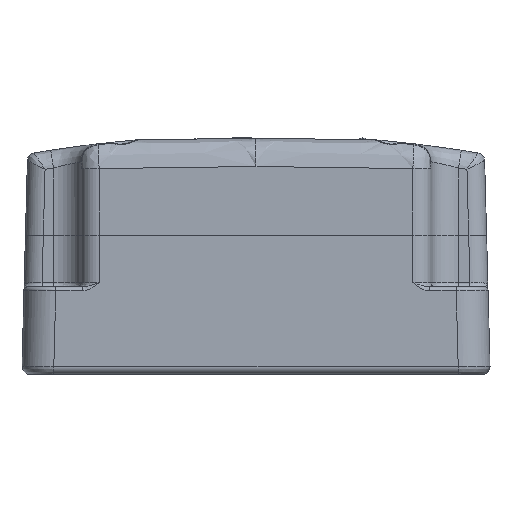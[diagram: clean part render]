
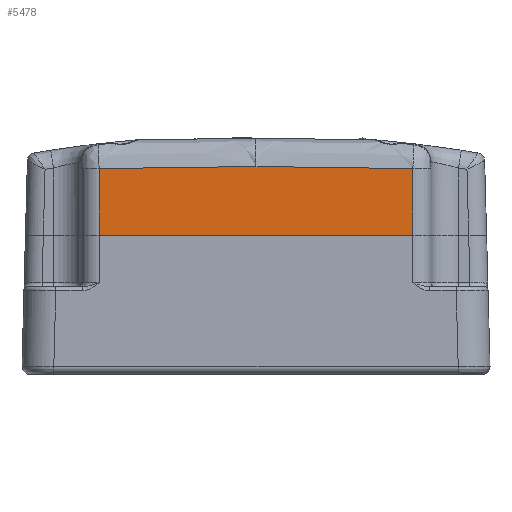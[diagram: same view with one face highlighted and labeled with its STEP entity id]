
A CAD part, left-side view. The second image highlights one B-rep face of the part: STEP entity #5478.
In plain terms, the highlighted planar face has unit normal (-1, 0, 0).
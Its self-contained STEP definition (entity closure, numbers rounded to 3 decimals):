
#845 = EDGE_LOOP ( 'NONE', ( #10026, #16123, #21038, #7724, #18748 ) ) ;
#2142 = EDGE_CURVE ( 'NONE', #22717, #30039, #23935, .T. ) ;
#3124 = CARTESIAN_POINT ( 'NONE',  ( -87.5, 0., 35.302 ) ) ;
#5478 = ADVANCED_FACE ( 'NONE', ( #31144 ), #43632, .T. ) ;
#7724 = ORIENTED_EDGE ( 'NONE', *, *, #19374, .T. ) ;
#8203 = LINE ( 'NONE', #29628, #31545 ) ;
#10026 = ORIENTED_EDGE ( 'NONE', *, *, #21749, .T. ) ;
#10097 = CARTESIAN_POINT ( 'NONE',  ( -87.5, -39.5, 34.776 ) ) ;
#10233 = CARTESIAN_POINT ( 'NONE',  ( -87.5, -39.5, -194.289 ) ) ;
#10734 = CARTESIAN_POINT ( 'NONE',  ( -87.5, 39.5, 34.776 ) ) ;
#13544 = B_SPLINE_CURVE_WITH_KNOTS ( 'NONE', 3,
 ( #16371, #40329, #40033, #3124 ),
 .UNSPECIFIED., .F., .F.,
 ( 4, 4 ),
 ( 0., 1. ),
 .UNSPECIFIED. ) ;
#13631 = CARTESIAN_POINT ( 'NONE',  ( -87.5, 0., 35.302 ) ) ;
#13649 = DIRECTION ( 'NONE',  ( 0., 0., 1. ) ) ;
#16123 = ORIENTED_EDGE ( 'NONE', *, *, #2142, .F. ) ;
#16371 = CARTESIAN_POINT ( 'NONE',  ( -87.5, -39.5, 34.776 ) ) ;
#16795 = VERTEX_POINT ( 'NONE', #17502 ) ;
#17502 = CARTESIAN_POINT ( 'NONE',  ( -87.5, -39.5, 18. ) ) ;
#17565 = EDGE_CURVE ( 'NONE', #33225, #36024, #13544, .T. ) ;
#18748 = ORIENTED_EDGE ( 'NONE', *, *, #17565, .T. ) ;
#19374 = EDGE_CURVE ( 'NONE', #16795, #33225, #29024, .T. ) ;
#21038 = ORIENTED_EDGE ( 'NONE', *, *, #21257, .F. ) ;
#21257 = EDGE_CURVE ( 'NONE', #16795, #22717, #8203, .T. ) ;
#21749 = EDGE_CURVE ( 'NONE', #36024, #30039, #28427, .T. ) ;
#22391 = CARTESIAN_POINT ( 'NONE',  ( -87.5, 39.5, 34.776 ) ) ;
#22717 = VERTEX_POINT ( 'NONE', #24420 ) ;
#23933 = CARTESIAN_POINT ( 'NONE',  ( -87.5, 13.169, 35.302 ) ) ;
#23935 = LINE ( 'NONE', #29646, #30801 ) ;
#24420 = CARTESIAN_POINT ( 'NONE',  ( -87.5, 39.5, 18. ) ) ;
#28427 = B_SPLINE_CURVE_WITH_KNOTS ( 'NONE', 3,
 ( #30870, #23933, #40809, #10734 ),
 .UNSPECIFIED., .F., .F.,
 ( 4, 4 ),
 ( 0., 1. ),
 .UNSPECIFIED. ) ;
#29024 = LINE ( 'NONE', #10233, #41743 ) ;
#29628 = CARTESIAN_POINT ( 'NONE',  ( -87.5, 0., 18. ) ) ;
#29646 = CARTESIAN_POINT ( 'NONE',  ( -87.5, 39.5, -194.289 ) ) ;
#30039 = VERTEX_POINT ( 'NONE', #22391 ) ;
#30801 = VECTOR ( 'NONE', #39710, 1000. ) ;
#30870 = CARTESIAN_POINT ( 'NONE',  ( -87.5, 0., 35.302 ) ) ;
#31144 = FACE_OUTER_BOUND ( 'NONE', #845, .T. ) ;
#31545 = VECTOR ( 'NONE', #43112, 1000. ) ;
#33225 = VERTEX_POINT ( 'NONE', #10097 ) ;
#33550 = CARTESIAN_POINT ( 'NONE',  ( -87.5, 58.5, -194.289 ) ) ;
#36024 = VERTEX_POINT ( 'NONE', #13631 ) ;
#39710 = DIRECTION ( 'NONE',  ( 0., 0., 1. ) ) ;
#40033 = CARTESIAN_POINT ( 'NONE',  ( -87.5, -13.169, 35.302 ) ) ;
#40329 = CARTESIAN_POINT ( 'NONE',  ( -87.5, -26.336, 35.126 ) ) ;
#40363 = DIRECTION ( 'NONE',  ( -1., 0., 0. ) ) ;
#40809 = CARTESIAN_POINT ( 'NONE',  ( -87.5, 26.336, 35.126 ) ) ;
#41025 = AXIS2_PLACEMENT_3D ( 'NONE', #33550, #40363, #43778 ) ;
#41743 = VECTOR ( 'NONE', #13649, 1000. ) ;
#43112 = DIRECTION ( 'NONE',  ( 0., 1., 0. ) ) ;
#43632 = PLANE ( 'NONE',  #41025 ) ;
#43778 = DIRECTION ( 'NONE',  ( 0., 0., 1. ) ) ;
